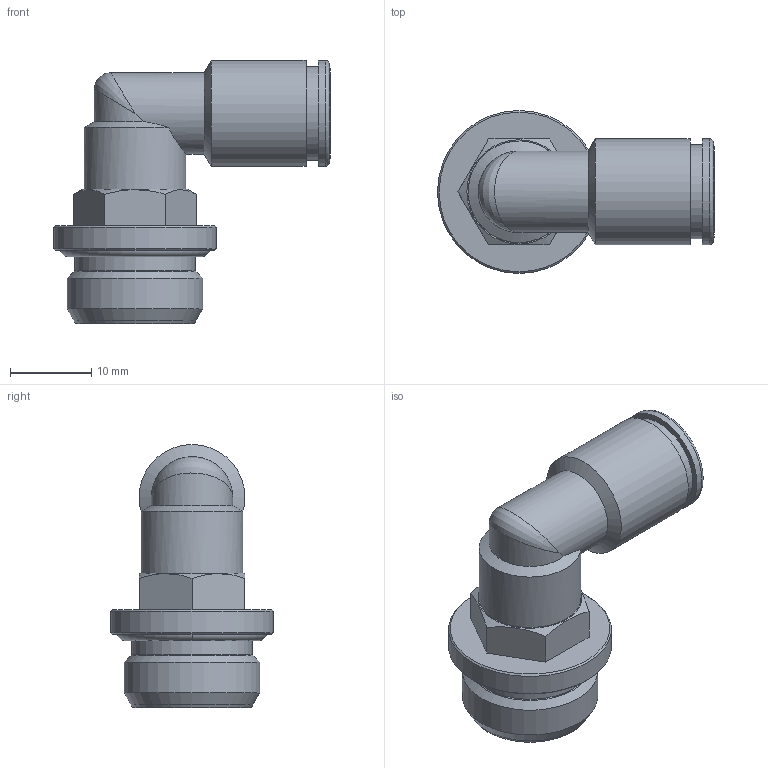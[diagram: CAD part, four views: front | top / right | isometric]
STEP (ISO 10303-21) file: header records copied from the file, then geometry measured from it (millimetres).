
FILE_DESCRIPTION(('Bauteilbeschreibung','HiCAD-Model','HiCAD-STEP-TRANSLATION','Bauteilbeschreibung'),'2;1');
FILE_NAME('B:/ABGLEICH/ZEICHNUNGEN/STEP FÜR INTERNET/STEP/202207_IPSO_022_8_3-8.STP','2011-09-16T09:34:52+00:00',('Konstrukteur'),('Konstrukteur Firma GmbH'),' HiCAD neXt 2008, Step 3.1.1401.2J ','HiCAD neXt 2008','confidential');
FILE_SCHEMA(('AUTOMOTIVE_DESIGN { 1 2 10303 214 0 1 1 1 }'));
Length unit declared in the file: millimetre
Products named in the file (7): A02207_IPSO_022_8_3_8; OR 14X1_78; A14605_N2_GEW__3_8; A146050N20GEW00308; G 3_8; R202205_N1_N2; DR8_1_NEU
Assembly tree (6 placements, depth 3):
  A02207_IPSO_022_8_3_8
    OR 14X1_78
    A14605_N2_GEW__3_8
    A146050N20GEW00308
      G 3_8
    R202205_N1_N2
    DR8_1_NEU
Bounding box: 34 x 20 x 32.3 mm (x, y, z)
Volume: 4228.1 mm3; surface area: 5933.5 mm2
Topology: 5 solids, 5 shells, 78 faces, 171 edges, 103 vertices
Faces by surface type: cone 26, cylinder 24, plane 20, torus 7, bspline 1
Full cylindrical faces by diameter (mm): 5.5 x1, 7 x1, 8.1 x1, 8.2 x1, 9 x2, 10 x1, 10.1 x3, 11 x2, 11.5 x1, 11.6 x1, 12.5 x1, 13 x2, 14.75 x1, 14.95 x2, 16.662 x1, 20 x1
Entity records: 5299 total; most frequent: CARTESIAN_POINT 3229, DIRECTION 340, ORIENTED_EDGE 216, AXIS2_PLACEMENT_3D 163, EDGE_LOOP 138, EDGE_CURVE 108, COLOUR_RGB 91, PRESENTATION_STYLE_ASSIGNMENT 91
